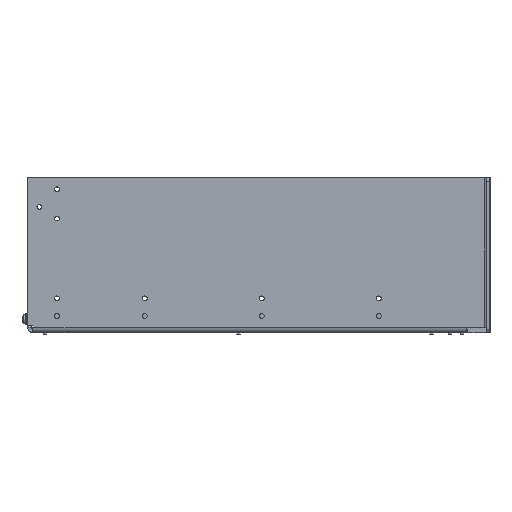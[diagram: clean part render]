
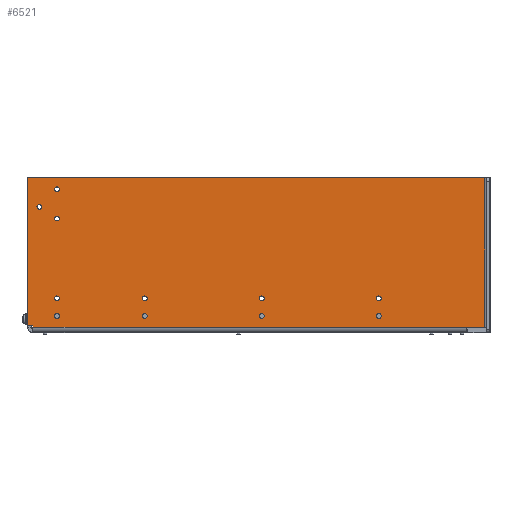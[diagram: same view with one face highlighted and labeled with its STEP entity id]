
A CAD part, left-side view. The second image highlights one B-rep face of the part: STEP entity #6521.
In plain terms, the highlighted planar face has unit normal (-1, 0, 0).
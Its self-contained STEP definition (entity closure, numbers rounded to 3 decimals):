
#678=FACE_BOUND('',#1385,.T.);
#679=FACE_BOUND('',#1386,.T.);
#680=FACE_BOUND('',#1387,.T.);
#681=FACE_BOUND('',#1388,.T.);
#682=FACE_BOUND('',#1389,.T.);
#683=FACE_BOUND('',#1390,.T.);
#684=FACE_BOUND('',#1391,.T.);
#685=FACE_BOUND('',#1392,.T.);
#686=FACE_BOUND('',#1393,.T.);
#687=FACE_BOUND('',#1394,.T.);
#688=FACE_BOUND('',#1395,.T.);
#867=PLANE('',#7136);
#1034=FACE_OUTER_BOUND('',#1384,.T.);
#1384=EDGE_LOOP('',(#4822,#4823,#4824,#4825,#4826,#4827,#4828));
#1385=EDGE_LOOP('',(#4829));
#1386=EDGE_LOOP('',(#4830));
#1387=EDGE_LOOP('',(#4831));
#1388=EDGE_LOOP('',(#4832));
#1389=EDGE_LOOP('',(#4833));
#1390=EDGE_LOOP('',(#4834));
#1391=EDGE_LOOP('',(#4835));
#1392=EDGE_LOOP('',(#4836));
#1393=EDGE_LOOP('',(#4837));
#1394=EDGE_LOOP('',(#4838));
#1395=EDGE_LOOP('',(#4839));
#1901=LINE('',#9975,#2411);
#1903=LINE('',#9980,#2413);
#1906=LINE('',#9987,#2416);
#1909=LINE('',#9992,#2419);
#1917=LINE('',#10012,#2427);
#1918=LINE('',#10015,#2428);
#1919=LINE('',#10016,#2429);
#2411=VECTOR('',#7990,10.);
#2413=VECTOR('',#7994,10.);
#2416=VECTOR('',#7999,10.);
#2419=VECTOR('',#8004,10.);
#2427=VECTOR('',#8024,10.);
#2428=VECTOR('',#8027,10.);
#2429=VECTOR('',#8028,10.);
#2875=CIRCLE('',#7060,2.067);
#2877=CIRCLE('',#7063,2.067);
#2879=CIRCLE('',#7066,2.067);
#2881=CIRCLE('',#7069,2.067);
#2883=CIRCLE('',#7072,2.067);
#2885=CIRCLE('',#7075,2.067);
#2887=CIRCLE('',#7078,2.067);
#2889=CIRCLE('',#7081,2.067);
#2891=CIRCLE('',#7084,2.067);
#2893=CIRCLE('',#7087,2.067);
#2895=CIRCLE('',#7090,2.067);
#3239=VERTEX_POINT('',#9806);
#3241=VERTEX_POINT('',#9812);
#3243=VERTEX_POINT('',#9818);
#3245=VERTEX_POINT('',#9824);
#3247=VERTEX_POINT('',#9830);
#3249=VERTEX_POINT('',#9836);
#3251=VERTEX_POINT('',#9842);
#3253=VERTEX_POINT('',#9848);
#3255=VERTEX_POINT('',#9854);
#3257=VERTEX_POINT('',#9860);
#3259=VERTEX_POINT('',#9866);
#3292=VERTEX_POINT('',#9964);
#3293=VERTEX_POINT('',#9968);
#3295=VERTEX_POINT('',#9979);
#3296=VERTEX_POINT('',#9983);
#3298=VERTEX_POINT('',#9986);
#3305=VERTEX_POINT('',#10010);
#3306=VERTEX_POINT('',#10014);
#3787=EDGE_CURVE('',#3239,#3239,#2875,.T.);
#3790=EDGE_CURVE('',#3241,#3241,#2877,.T.);
#3793=EDGE_CURVE('',#3243,#3243,#2879,.T.);
#3796=EDGE_CURVE('',#3245,#3245,#2881,.T.);
#3799=EDGE_CURVE('',#3247,#3247,#2883,.T.);
#3802=EDGE_CURVE('',#3249,#3249,#2885,.T.);
#3805=EDGE_CURVE('',#3251,#3251,#2887,.T.);
#3808=EDGE_CURVE('',#3253,#3253,#2889,.T.);
#3811=EDGE_CURVE('',#3255,#3255,#2891,.T.);
#3814=EDGE_CURVE('',#3257,#3257,#2893,.T.);
#3817=EDGE_CURVE('',#3259,#3259,#2895,.T.);
#3870=EDGE_CURVE('',#3292,#3293,#1901,.T.);
#3872=EDGE_CURVE('',#3295,#3293,#1903,.T.);
#3875=EDGE_CURVE('',#3298,#3296,#1906,.T.);
#3878=EDGE_CURVE('',#3295,#3296,#1909,.T.);
#3889=EDGE_CURVE('',#3298,#3305,#1917,.T.);
#3890=EDGE_CURVE('',#3292,#3306,#1918,.T.);
#3891=EDGE_CURVE('',#3306,#3305,#1919,.T.);
#4822=ORIENTED_EDGE('',*,*,#3878,.F.);
#4823=ORIENTED_EDGE('',*,*,#3872,.T.);
#4824=ORIENTED_EDGE('',*,*,#3870,.F.);
#4825=ORIENTED_EDGE('',*,*,#3890,.T.);
#4826=ORIENTED_EDGE('',*,*,#3891,.T.);
#4827=ORIENTED_EDGE('',*,*,#3889,.F.);
#4828=ORIENTED_EDGE('',*,*,#3875,.T.);
#4829=ORIENTED_EDGE('',*,*,#3787,.T.);
#4830=ORIENTED_EDGE('',*,*,#3790,.T.);
#4831=ORIENTED_EDGE('',*,*,#3793,.T.);
#4832=ORIENTED_EDGE('',*,*,#3796,.T.);
#4833=ORIENTED_EDGE('',*,*,#3799,.T.);
#4834=ORIENTED_EDGE('',*,*,#3802,.T.);
#4835=ORIENTED_EDGE('',*,*,#3805,.T.);
#4836=ORIENTED_EDGE('',*,*,#3808,.T.);
#4837=ORIENTED_EDGE('',*,*,#3811,.T.);
#4838=ORIENTED_EDGE('',*,*,#3814,.T.);
#4839=ORIENTED_EDGE('',*,*,#3817,.T.);
#6521=ADVANCED_FACE('',(#1034,#678,#679,#680,#681,#682,#683,#684,#685,#686,
#687,#688),#867,.T.);
#7060=AXIS2_PLACEMENT_3D('',#9808,#7810,#7811);
#7063=AXIS2_PLACEMENT_3D('',#9814,#7817,#7818);
#7066=AXIS2_PLACEMENT_3D('',#9820,#7824,#7825);
#7069=AXIS2_PLACEMENT_3D('',#9826,#7831,#7832);
#7072=AXIS2_PLACEMENT_3D('',#9832,#7838,#7839);
#7075=AXIS2_PLACEMENT_3D('',#9838,#7845,#7846);
#7078=AXIS2_PLACEMENT_3D('',#9844,#7852,#7853);
#7081=AXIS2_PLACEMENT_3D('',#9850,#7859,#7860);
#7084=AXIS2_PLACEMENT_3D('',#9856,#7866,#7867);
#7087=AXIS2_PLACEMENT_3D('',#9862,#7873,#7874);
#7090=AXIS2_PLACEMENT_3D('',#9868,#7880,#7881);
#7136=AXIS2_PLACEMENT_3D('',#10013,#8025,#8026);
#7810=DIRECTION('center_axis',(1.,0.,0.));
#7811=DIRECTION('ref_axis',(0.,0.,
1.));
#7817=DIRECTION('center_axis',(1.,0.,0.));
#7818=DIRECTION('ref_axis',(0.,0.,
1.));
#7824=DIRECTION('center_axis',(1.,0.,0.));
#7825=DIRECTION('ref_axis',(0.,0.,
1.));
#7831=DIRECTION('center_axis',(1.,0.,0.));
#7832=DIRECTION('ref_axis',(0.,0.,
1.));
#7838=DIRECTION('center_axis',(1.,0.,0.));
#7839=DIRECTION('ref_axis',(0.,0.,
1.));
#7845=DIRECTION('center_axis',(1.,0.,0.));
#7846=DIRECTION('ref_axis',(0.,0.,
1.));
#7852=DIRECTION('center_axis',(1.,0.,0.));
#7853=DIRECTION('ref_axis',(0.,0.,
1.));
#7859=DIRECTION('center_axis',(1.,0.,0.));
#7860=DIRECTION('ref_axis',(0.,0.,
1.));
#7866=DIRECTION('center_axis',(1.,0.,0.));
#7867=DIRECTION('ref_axis',(0.,0.,
1.));
#7873=DIRECTION('center_axis',(1.,0.,0.));
#7874=DIRECTION('ref_axis',(0.,0.,
1.));
#7880=DIRECTION('center_axis',(1.,0.,0.));
#7881=DIRECTION('ref_axis',(0.,0.,
1.));
#7990=DIRECTION('',(0.,0.,-1.));
#7994=DIRECTION('',(0.,-1.,0.));
#7999=DIRECTION('',(0.,0.,-1.));
#8004=DIRECTION('',(0.,1.,0.));
#8024=DIRECTION('',(0.,1.,0.));
#8025=DIRECTION('center_axis',(-1.,0.,0.));
#8026=DIRECTION('ref_axis',(0.,0.,
1.));
#8027=DIRECTION('',(0.,1.,0.));
#8028=DIRECTION('',(0.,0.,-1.));
#9806=CARTESIAN_POINT('',(-223.,-112.5,9.233));
#9808=CARTESIAN_POINT('Origin',(-223.,-112.5,11.3));
#9812=CARTESIAN_POINT('',(-223.,-12.5,9.233));
#9814=CARTESIAN_POINT('Origin',(-223.,-12.5,11.3));
#9818=CARTESIAN_POINT('',(-223.,87.5,9.233));
#9820=CARTESIAN_POINT('Origin',(-223.,87.5,11.3));
#9824=CARTESIAN_POINT('',(-223.,162.5,9.233));
#9826=CARTESIAN_POINT('Origin',(-223.,162.5,11.3));
#9830=CARTESIAN_POINT('',(-223.,162.5,92.433));
#9832=CARTESIAN_POINT('Origin',(-223.,162.5,94.5));
#9836=CARTESIAN_POINT('',(-223.,162.5,117.433));
#9838=CARTESIAN_POINT('Origin',(-223.,162.5,119.5));
#9842=CARTESIAN_POINT('',(-223.,162.5,24.233));
#9844=CARTESIAN_POINT('Origin',(-223.,162.5,26.3));
#9848=CARTESIAN_POINT('',(-223.,87.5,24.233));
#9850=CARTESIAN_POINT('Origin',(-223.,87.5,26.3));
#9854=CARTESIAN_POINT('',(-223.,-12.5,24.233));
#9856=CARTESIAN_POINT('Origin',(-223.,-12.5,26.3));
#9860=CARTESIAN_POINT('',(-223.,-112.5,24.233));
#9862=CARTESIAN_POINT('Origin',(-223.,-112.5,26.3));
#9866=CARTESIAN_POINT('',(-223.,177.5,102.433));
#9868=CARTESIAN_POINT('Origin',(-223.,177.5,104.5));
#9964=CARTESIAN_POINT('',(-223.,-203.,129.5));
#9968=CARTESIAN_POINT('',(-223.,-203.,1.5));
#9975=CARTESIAN_POINT('',(-223.,-203.,129.5));
#9979=CARTESIAN_POINT('',(-223.,-187.5,1.5));
#9980=CARTESIAN_POINT('',(-223.,-187.5,1.5));
#9983=CARTESIAN_POINT('',(-223.,183.,1.5));
#9986=CARTESIAN_POINT('',(-223.,183.,3.));
#9987=CARTESIAN_POINT('',(-223.,183.,-2.93));
#9992=CARTESIAN_POINT('',(-223.,-0.01,1.5));
#10010=CARTESIAN_POINT('',(-223.,187.5,3.));
#10012=CARTESIAN_POINT('',(-223.,91.49,3.));
#10013=CARTESIAN_POINT('Origin',(-223.,-0.02,63.305));
#10014=CARTESIAN_POINT('',(-223.,187.5,129.5));
#10015=CARTESIAN_POINT('',(-223.,-187.5,129.5));
#10016=CARTESIAN_POINT('',(-223.,187.5,1.5));
